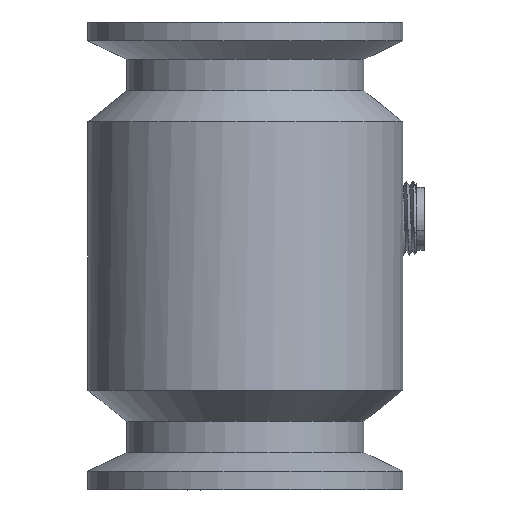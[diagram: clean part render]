
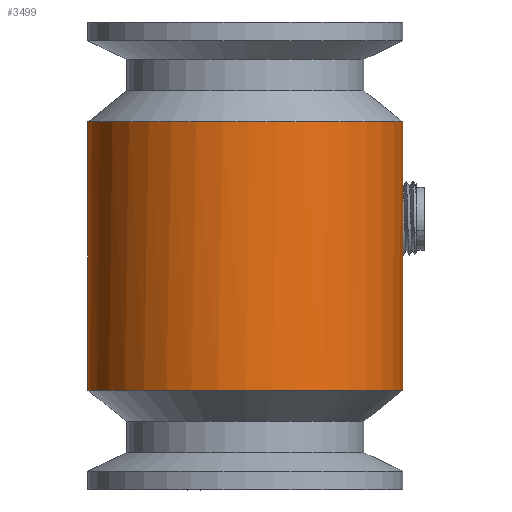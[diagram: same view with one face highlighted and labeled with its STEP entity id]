
A CAD part, front view. The second image highlights one B-rep face of the part: STEP entity #3499.
In plain terms, the highlighted cylindrical face has radius 25.25 mm (diameter 50.5 mm), a full revolution.
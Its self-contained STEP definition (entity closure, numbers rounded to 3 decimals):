
#2260=FACE_BOUND('',#5229,.T.);
#2261=FACE_BOUND('',#5230,.T.);
#2427=CYLINDRICAL_SURFACE('',#15137,25.25);
#2782=CIRCLE('',#15133,25.25);
#2783=CIRCLE('',#15134,25.25);
#2784=CIRCLE('',#15136,25.25);
#3499=ADVANCED_FACE('',(#2260,#2261),#2427,.T.);
#5229=EDGE_LOOP('',(#9405));
#5230=EDGE_LOOP('',(#9406,#9407,#9408));
#5943=B_SPLINE_CURVE_WITH_KNOTS('',3,(#31490,#31491,#31492,#31493,#31494,
#31495,#31496,#31497,#31498,#31499,#31500,#31501,#31502,#31503,#31504,#31505,
#31506,#31507,#31508,#31509,#31510,#31511,#31512,#31513,#31514,#31515,#31516,
#31517),.UNSPECIFIED.,.F.,.F.,(4,2,2,2,2,2,2,2,2,2,2,2,2,4),(0.,0.063,
0.125,0.25,0.375,0.438,0.5,
0.563,0.625,0.75,0.813,
0.875,0.938,1.),.UNSPECIFIED.);
#9405=ORIENTED_EDGE('',*,*,#12440,.T.);
#9406=ORIENTED_EDGE('',*,*,#12439,.T.);
#9407=ORIENTED_EDGE('',*,*,#12441,.T.);
#9408=ORIENTED_EDGE('',*,*,#12437,.T.);
#10672=VERTEX_POINT('',#31479);
#10673=VERTEX_POINT('',#31480);
#10674=VERTEX_POINT('',#31485);
#10675=VERTEX_POINT('',#31489);
#12437=EDGE_CURVE('',#10672,#10673,#2782,.T.);
#12439=EDGE_CURVE('',#10673,#10674,#2783,.T.);
#12440=EDGE_CURVE('',#10675,#10675,#2784,.T.);
#12441=EDGE_CURVE('',#10674,#10672,#5943,.T.);
#15133=AXIS2_PLACEMENT_3D('',#31478,#17879,#17880);
#15134=AXIS2_PLACEMENT_3D('',#31486,#17881,#17882);
#15136=AXIS2_PLACEMENT_3D('',#31488,#17885,#17886);
#15137=AXIS2_PLACEMENT_3D('',#31518,#17887,#17888);
#17879=DIRECTION('',(0.,0.,-1.));
#17880=DIRECTION('',(1.,0.,0.));
#17881=DIRECTION('',(0.,0.,-1.));
#17882=DIRECTION('',(1.,0.,0.));
#17885=DIRECTION('',(0.,0.,1.));
#17886=DIRECTION('',(-1.,0.,0.));
#17887=DIRECTION('',(0.,0.,-1.));
#17888=DIRECTION('',(1.,0.,0.));
#31478=CARTESIAN_POINT('',(0.,-4.5,158.5));
#31479=CARTESIAN_POINT('',(1.985,20.672,158.5));
#31480=CARTESIAN_POINT('',(25.25,-4.5,158.5));
#31485=CARTESIAN_POINT('',(-2.01,20.67,158.5));
#31486=CARTESIAN_POINT('',(0.,-4.5,158.5));
#31488=CARTESIAN_POINT('',(0.,-4.5,115.5));
#31489=CARTESIAN_POINT('',(-25.25,-4.5,115.5));
#31490=CARTESIAN_POINT('',(-2.01,20.67,158.5));
#31491=CARTESIAN_POINT('',(-3.88,20.52,158.205));
#31492=CARTESIAN_POINT('',(-5.666,20.159,157.488));
#31493=CARTESIAN_POINT('',(-8.756,19.238,155.458));
#31494=CARTESIAN_POINT('',(-10.071,18.685,154.155));
#31495=CARTESIAN_POINT('',(-13.254,17.121,149.617));
#31496=CARTESIAN_POINT('',(-14.292,16.318,145.831));
#31497=CARTESIAN_POINT('',(-13.863,16.606,138.2));
#31498=CARTESIAN_POINT('',(-12.392,17.661,134.565));
#31499=CARTESIAN_POINT('',(-8.718,19.235,130.521));
#31500=CARTESIAN_POINT('',(-7.224,19.756,129.383));
#31501=CARTESIAN_POINT('',(-3.858,20.513,127.797));
#31502=CARTESIAN_POINT('',(-1.962,20.746,127.35));
#31503=CARTESIAN_POINT('',(1.847,20.754,127.336));
#31504=CARTESIAN_POINT('',(3.759,20.529,127.773));
#31505=CARTESIAN_POINT('',(7.155,19.777,129.353));
#31506=CARTESIAN_POINT('',(8.655,19.258,130.487));
#31507=CARTESIAN_POINT('',(12.357,17.683,134.539));
#31508=CARTESIAN_POINT('',(13.827,16.629,138.183));
#31509=CARTESIAN_POINT('',(14.161,16.406,143.866));
#31510=CARTESIAN_POINT('',(13.96,16.548,145.793));
#31511=CARTESIAN_POINT('',(12.96,17.178,149.426));
#31512=CARTESIAN_POINT('',(12.175,17.653,151.118));
#31513=CARTESIAN_POINT('',(10.053,18.693,154.148));
#31514=CARTESIAN_POINT('',(8.762,19.237,155.434));
#31515=CARTESIAN_POINT('',(5.645,20.164,157.489));
#31516=CARTESIAN_POINT('',(3.87,20.523,158.202));
#31517=CARTESIAN_POINT('',(1.985,20.672,158.5));
#31518=CARTESIAN_POINT('',(0.,-4.5,193.5));
